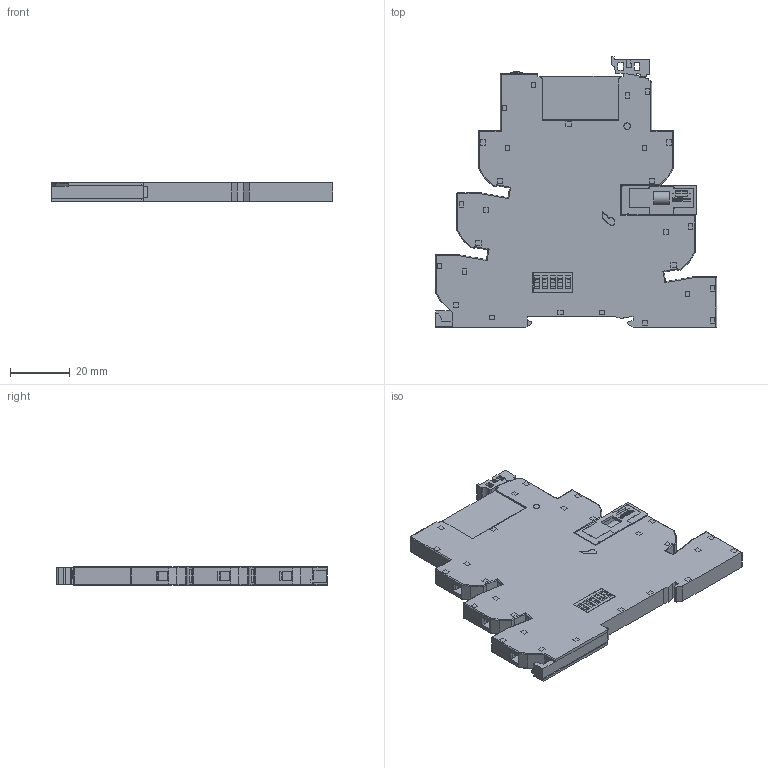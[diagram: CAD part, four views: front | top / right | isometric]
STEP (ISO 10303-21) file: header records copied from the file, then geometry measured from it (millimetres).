
FILE_DESCRIPTION(('STEP AP214'),'2;1');
FILE_NAME('3981=3451+9368+09363.stp','2010-10-02T09:45:12',(''),(''),'2007.1.106','THINKDESIGN','');
FILE_SCHEMA(('AUTOMOTIVE_DESIGN'));
Products named in the file (1): None
Bounding box: 94.25 x 90.7 x 6.2 mm (x, y, z)
Surface area: 20077.2 mm2 (no closed solid volume)
Topology: 0 solids, 0 shells, 1157 faces, 7140 edges, 7124 vertices
Faces by surface type: plane 876, cylinder 205, bspline 76
Full cylindrical faces by diameter (mm): 1.5 x6, 2.2 x2, 2.798 x6, 3.9 x6, 4.299 x6, 4.4 x1
Entity records: 74574 total; most frequent: CARTESIAN_POINT 23919, DIRECTION 8913, COMPOSITE_CURVE_SEGMENT 7127, TRIMMED_CURVE 6379, VECTOR 6011, LINE 6011, AXIS2_PLACEMENT_3D 1451, OUTER_BOUNDARY_CURVE 1157
